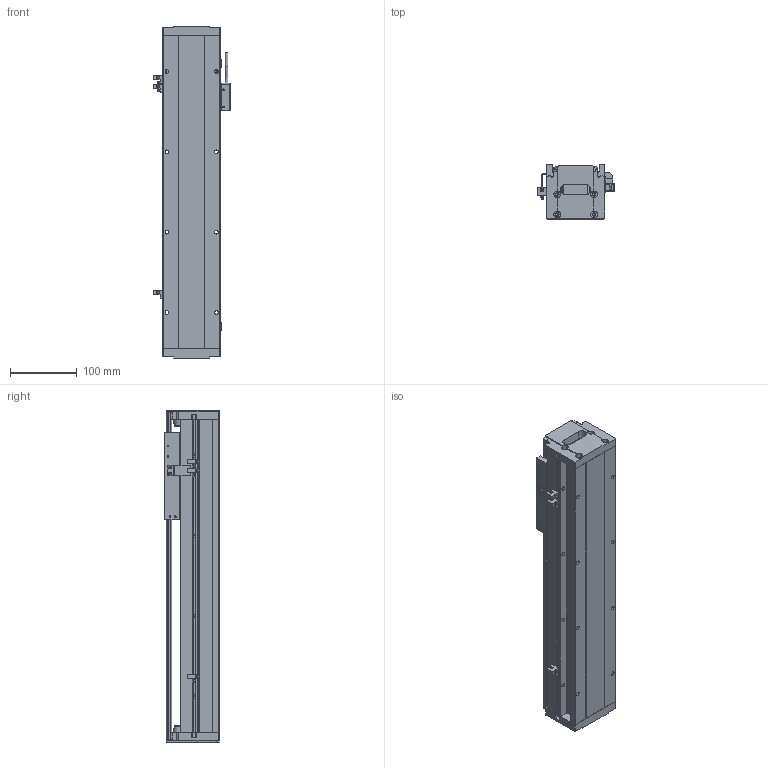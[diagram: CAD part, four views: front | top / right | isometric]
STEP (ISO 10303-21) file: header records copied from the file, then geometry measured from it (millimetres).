
FILE_DESCRIPTION (( 'STEP AP214' ), '1' );
FILE_NAME ('STC086-A-P-0298-F105-MB-010-0.3.STEP', '2023-05-11T03:08:01', ( '' ), ( '' ), 'SwSTEP 2.0', 'SolidWorks 2018', '' );
FILE_SCHEMA (( 'AUTOMOTIVE_DESIGN' ));
Length unit declared in the file: millimetre
Products named in the file (43): 086-SE1-040-S賑怢; SF-202NA-W（光电开关）; STK0066-001（086端盖）; STK013-01（磁栅压块）; 086-Lxxxx裔啣; 蝶菜17x14x10; 賑輸SRS12M; STK0086-001（086读头固定块）; 086-Lxxxx菁釱; SKT0112-02（线缆固定件）; HC-U-02-Lxxx棠掑喜; SE040隅赽; STK0112-01（感应片）(默认); STC086-A-P-0298-F105-MB-010-0.3; 絳寢SRS12M+xxxxL-G10; STK080-F105賑怢蚾饜极; LMD-2-R001-V5-L0.3-C0-F00（磁栅编码器）
Assembly tree (27 placements, depth 3):
  086-SE1-040-S賑怢
  STK0066-001（086端盖）
  086-Lxxxx裔啣
  蝶菜17x14x10
  賑輸SRS12M
Bounding box: 114.4 x 81 x 496 mm (x, y, z)
Volume: 1749583.7 mm3; surface area: 546926.5 mm2
Topology: 26 solids, 26 shells, 1828 faces, 5008 edges, 3189 vertices
Faces by surface type: plane 893, cylinder 751, cone 160, torus 14, bspline 6, sphere 4
Entity records: 41942 total; most frequent: CARTESIAN_POINT 8158, DIRECTION 6853, ORIENTED_EDGE 6750, EDGE_CURVE 3375, AXIS2_PLACEMENT_3D 2394, VERTEX_POINT 2207, VECTOR 2065, LINE 2065
